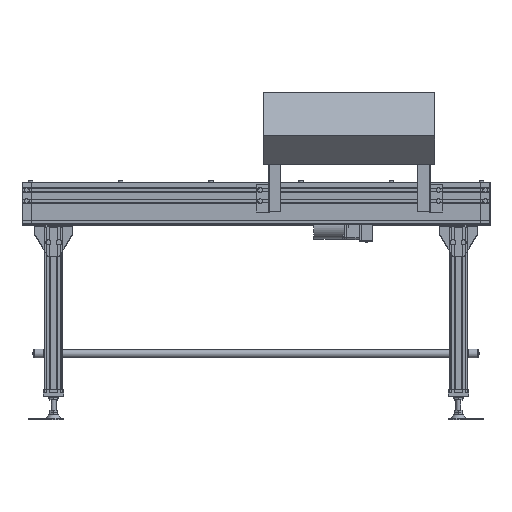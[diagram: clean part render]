
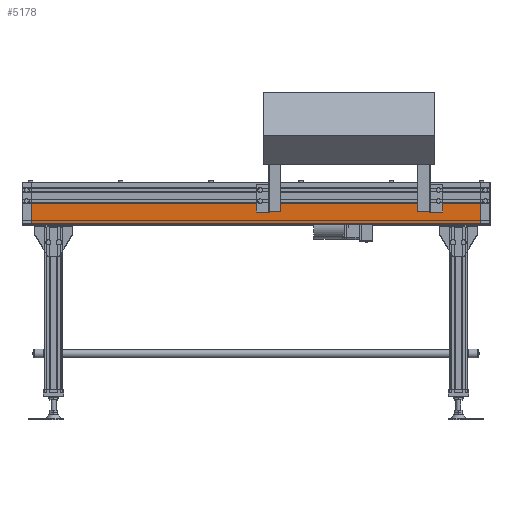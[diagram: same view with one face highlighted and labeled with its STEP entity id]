
A CAD part, top view. The second image highlights one B-rep face of the part: STEP entity #5178.
In plain terms, the highlighted planar face has unit normal (0, 0, 1).
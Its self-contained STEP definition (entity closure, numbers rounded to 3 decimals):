
#5178=ADVANCED_FACE('',(#8909),#8908,.F.);
#8908=PLANE('',#25306);
#8909=FACE_OUTER_BOUND('',#25307,.T.);
#25303=CARTESIAN_POINT('',(-10.,-131.175,510.));
#25304=DIRECTION('',(0.,0.,-1.));
#25305=DIRECTION('',(0.,1.,0.));
#25306=AXIS2_PLACEMENT_3D('',#25303,#25304,#25305);
#25307=EDGE_LOOP('',(#35634,#35635,#35636,#35637));
#35634=ORIENTED_EDGE('',*,*,#43445,.T.);
#35635=ORIENTED_EDGE('',*,*,#43446,.F.);
#35636=ORIENTED_EDGE('',*,*,#43447,.F.);
#35637=ORIENTED_EDGE('',*,*,#43443,.T.);
#43443=EDGE_CURVE('',#50756,#50749,#50757,.T.);
#43445=EDGE_CURVE('',#50749,#50769,#50770,.T.);
#43446=EDGE_CURVE('',#50776,#50769,#50777,.T.);
#43447=EDGE_CURVE('',#50756,#50776,#50783,.T.);
#50749=VERTEX_POINT('',#76828);
#50756=VERTEX_POINT('',#76832);
#50757=LINE('',#76833,#76834);
#50769=VERTEX_POINT('',#76839);
#50770=LINE('',#76840,#76841);
#50776=VERTEX_POINT('',#76843);
#50777=LINE('',#76844,#76845);
#50783=LINE('',#76847,#76848);
#76828=CARTESIAN_POINT('',(0.,-52.25,510.));
#76832=CARTESIAN_POINT('',(1502.,-52.25,510.));
#76833=CARTESIAN_POINT('',(1502.,-52.25,510.));
#76834=VECTOR('',#76835,1502.);
#76835=DIRECTION('',(-1.,0.,0.));
#76839=CARTESIAN_POINT('',(0.,-124.,510.));
#76840=CARTESIAN_POINT('',(0.,-52.25,510.));
#76841=VECTOR('',#76842,71.75);
#76842=DIRECTION('',(0.,-1.,0.));
#76843=CARTESIAN_POINT('',(1502.,-124.,510.));
#76844=CARTESIAN_POINT('',(1502.,-124.,510.));
#76845=VECTOR('',#76846,1502.);
#76846=DIRECTION('',(-1.,0.,0.));
#76847=CARTESIAN_POINT('',(1502.,-52.25,510.));
#76848=VECTOR('',#76849,71.75);
#76849=DIRECTION('',(0.,-1.,0.));
